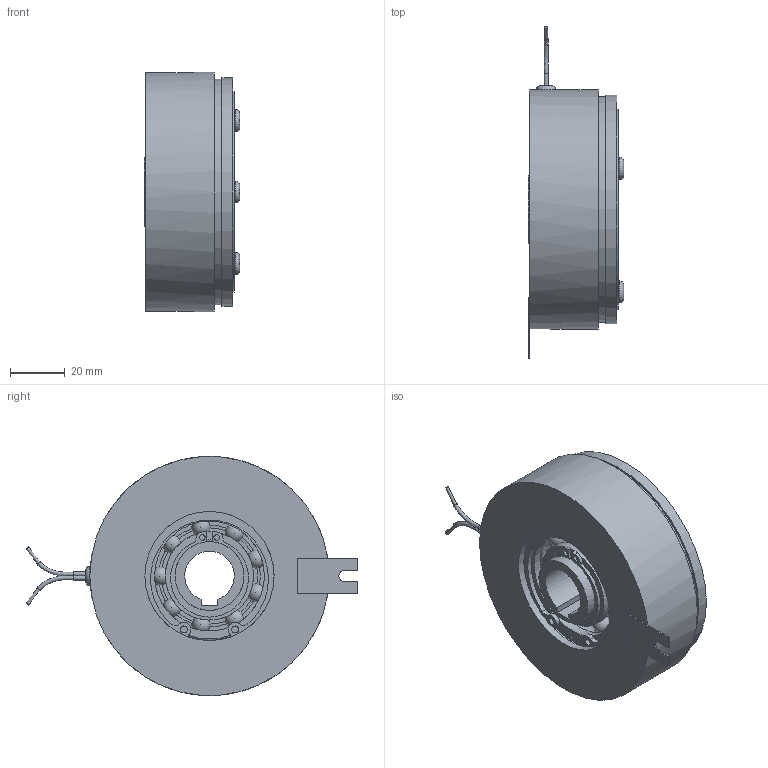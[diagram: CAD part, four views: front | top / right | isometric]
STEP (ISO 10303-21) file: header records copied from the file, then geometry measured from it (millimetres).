
FILE_DESCRIPTION(/* description */ (''),/* implementation_level */ '2;1');
FILE_NAME(/* name */ 'X:\INVENTOR\DISEGNI\08_Freni_Friz_Elettmag_Monodisco\08_25 EMSL\08_25_080_01 EMSL080\08_25_080_01 EMSL080@STEP.stp',/* time_stamp */ '2017-07-11T15:32:17+02:00',/* author */ ('stefano'),/* organization */ (''),/* preprocessor_version */ 'ST-DEVELOPER v16.1',/* originating_system */ 'Autodesk Inventor 2016',/* authorisation */ '');
FILE_SCHEMA (('CONFIG_CONTROL_DESIGN'));
Length unit declared in the file: millimetre
Products named in the file (1): 08_25_080_01 EMSL080_Substitute_1
Bounding box: 34.7 x 120.72 x 87 mm (x, y, z)
Volume: 144287.8 mm3; surface area: 52606.5 mm2
Topology: 2 solids, 2 shells, 202 faces, 524 edges, 341 vertices
Faces by surface type: cylinder 82, plane 82, torus 24, sphere 9, cone 3, bspline 2
Full cylindrical faces by diameter (mm): 1.154 x2, 1.5 x2, 2 x2, 2.5 x5, 4.1 x3, 8 x3, 11 x3, 23.9 x1, 25 x2, 32.04 x2, 35 x1, 37 x1, 39.96 x2, 42 x1, 47 x3, 49.5 x1, 51 x1, 60 x2, 73 x1, 76 x2, 82 x1, 82.2 x1, 83 x1, 87 x1
Entity records: 7014 total; most frequent: CARTESIAN_POINT 2087, DIRECTION 1001, ORIENTED_EDGE 870, AXIS2_PLACEMENT_3D 447, EDGE_CURVE 430, EDGE_LOOP 317, VERTEX_POINT 308, CIRCLE 246
